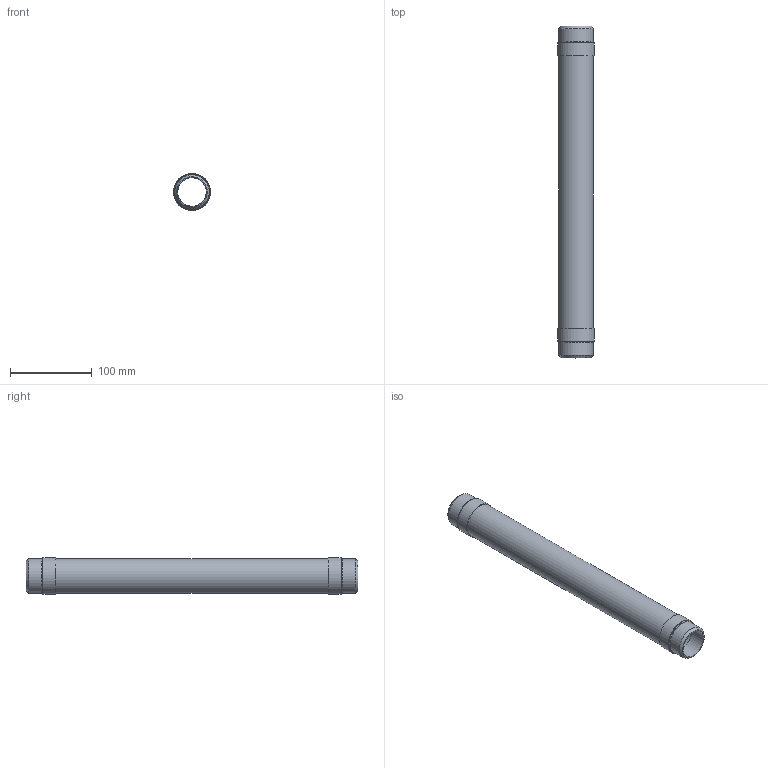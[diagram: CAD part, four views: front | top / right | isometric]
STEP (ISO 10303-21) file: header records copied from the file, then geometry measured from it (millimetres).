
FILE_DESCRIPTION(/* description */ (''),/* implementation_level */ '2;1');
FILE_NAME(/* name */ 'C:\001_Work\Designs\CSAWN\CSAWN-1.25x16.stp',/* time_stamp */ '2016-06-04T16:50:38-04:00',/* author */ ('rramoutar'),/* organization */ ('Mason Industries Inc.'),/* preprocessor_version */ 'ST-DEVELOPER v15.6',/* originating_system */ 'Autodesk Inventor 2015',/* authorisation */ '');
FILE_SCHEMA (('CONFIG_CONTROL_DESIGN'));
Length unit declared in the file: inch
Products named in the file (1): CSAWN-1.25x16
Bounding box: 45.14 x 406.4 x 45.14 mm (x, y, z)
Volume: 37191.1 mm3; surface area: 118822.3 mm2
Topology: 5 solids, 5 shells, 24 faces, 40 edges, 26 vertices
Faces by surface type: cylinder 10, plane 10, cone 4
Full cylindrical faces by diameter (mm): 35.052 x2, 42.164 x3, 42.774 x3, 45.155 x2
Entity records: 564 total; most frequent: DIRECTION 98, CARTESIAN_POINT 73, AXIS2_PLACEMENT_3D 49, EDGE_LOOP 48, ORIENTED_EDGE 48, STYLED_ITEM 29, FACE_BOUND 24, FACE_OUTER_BOUND 24
